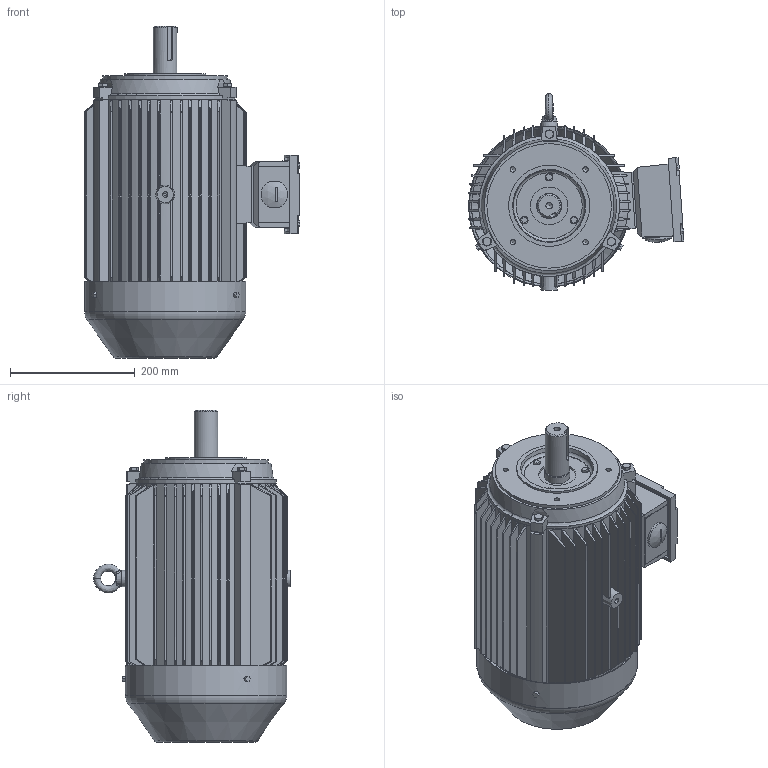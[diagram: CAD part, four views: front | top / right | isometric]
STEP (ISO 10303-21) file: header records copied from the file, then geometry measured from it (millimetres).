
FILE_DESCRIPTION(/* description */ (''),/* implementation_level */ '2;1');
FILE_NAME(/* name */ 'C:/Users/luigi_zhang/Desktop/temp/TE3-132M B14.step',/* time_stamp */ '2020-07-01T16:12:44+10:00',/* author */ (''),/* organization */ (''),/* preprocessor_version */ 'ST-DEVELOPER v18.1',/* originating_system */ 'Autodesk Translation Framework v9.3.0.1241',/* authorisation */ '');
FILE_SCHEMA (('AUTOMOTIVE_DESIGN { 1 0 10303 214 3 1 1 }'));
Products named in the file (10): (Unsaved); »ú×ùYX3-132M B5; GX132 B14 P24 Í¹Ôµ¶Ë¸Ç
£¨ÖáÉì£©; TE3-132 ·çÕÖ; TE3-132 ÖáÉì; eyebolts gb_GB_FASTENER_SCREWS_FRS M10-N; hexagon head bolts--product grade c gb_GB_FASTENER_BOLT_HHBC M8X40-N; TE3-112~132½ÓÏßºÐ; GX132 P24 ½ÓÏßºÐ×ù; GX112~132 P24½ÓÏßºÐ¸Ç
Assembly tree (11 placements, depth 3):
  (Unsaved)
    »ú×ùYX3-132M B5
    GX132 B14 P24 Í¹Ôµ¶Ë¸Ç
£¨ÖáÉì£©
    TE3-132 ·çÕÖ
    TE3-132 ÖáÉì
    eyebolts gb_GB_FASTENER_SCREWS_FRS M10-N
    hexagon head bolts--product grade c gb_GB_FASTENER_BOLT_HHBC M8X40-N  x3
    TE3-112~132½ÓÏßºÐ
      GX132 P24 ½ÓÏßºÐ×ù
      GX112~132 P24½ÓÏßºÐ¸Ç
Bounding box: 345.83 x 315.1 x 532 mm (x, y, z)
Volume: 16017772.2 mm3; surface area: 1304147.1 mm2
Topology: 11 solids, 11 shells, 1158 faces, 2810 edges, 1859 vertices
Faces by surface type: plane 877, cylinder 124, bspline 79, cone 64, torus 13, sphere 1
Full cylindrical faces by diameter (mm): 5 x8, 8 x7, 8.5 x4, 10 x4, 10.2 x1, 12 x3, 12.669 x1, 23.72 x1, 38 x1, 40 x2, 42.7 x1, 60 x1, 106 x1, 130 x1, 199.5 x1, 215 x1, 256.4 x1, 258.4 x1
Entity records: 51023 total; most frequent: CARTESIAN_POINT 25078, ORIENTED_EDGE 5458, DIRECTION 4736, EDGE_CURVE 2729, LINE 2026, VECTOR 2026, VERTEX_POINT 1813, AXIS2_PLACEMENT_3D 1355
